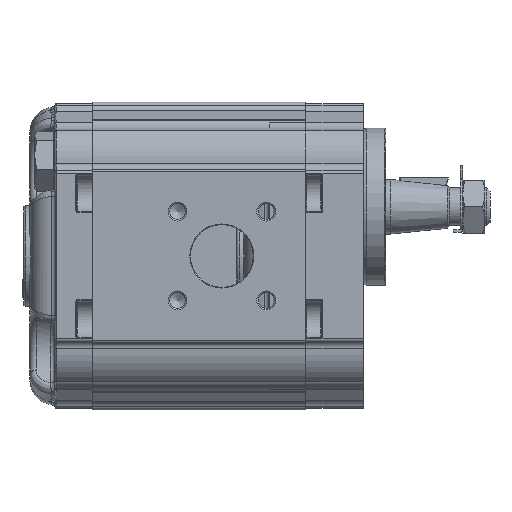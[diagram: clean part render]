
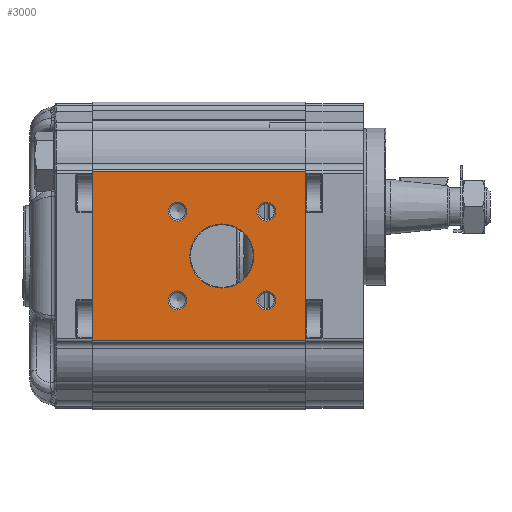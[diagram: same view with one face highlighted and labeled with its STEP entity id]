
A CAD part, left-side view. The second image highlights one B-rep face of the part: STEP entity #3000.
In plain terms, the highlighted planar face has unit normal (-1, 0, 0).
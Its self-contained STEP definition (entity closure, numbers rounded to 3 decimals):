
#3000 = ADVANCED_FACE( '', ( #7306, #7307, #7308, #7309, #7310, #7311 ), #7312, .T. );
#7306 = FACE_BOUND( '', #13536, .T. );
#7307 = FACE_BOUND( '', #13537, .T. );
#7308 = FACE_BOUND( '', #13538, .T. );
#7309 = FACE_BOUND( '', #13539, .T. );
#7310 = FACE_BOUND( '', #13540, .T. );
#7311 = FACE_OUTER_BOUND( '', #13541, .T. );
#7312 = PLANE( '', #13542 );
#13536 = EDGE_LOOP( '', ( #25080 ) );
#13537 = EDGE_LOOP( '', ( #25081 ) );
#13538 = EDGE_LOOP( '', ( #25082 ) );
#13539 = EDGE_LOOP( '', ( #25083 ) );
#13540 = EDGE_LOOP( '', ( #25084 ) );
#13541 = EDGE_LOOP( '', ( #25085, #25086, #25087, #25088 ) );
#13542 = AXIS2_PLACEMENT_3D( '', #25089, #25090, #25091 );
#25080 = ORIENTED_EDGE( '', *, *, #38917, .T. );
#25081 = ORIENTED_EDGE( '', *, *, #38963, .T. );
#25082 = ORIENTED_EDGE( '', *, *, #38964, .T. );
#25083 = ORIENTED_EDGE( '', *, *, #36078, .T. );
#25084 = ORIENTED_EDGE( '', *, *, #35800, .T. );
#25085 = ORIENTED_EDGE( '', *, *, #37810, .F. );
#25086 = ORIENTED_EDGE( '', *, *, #38965, .F. );
#25087 = ORIENTED_EDGE( '', *, *, #38966, .T. );
#25088 = ORIENTED_EDGE( '', *, *, #38145, .T. );
#25089 = CARTESIAN_POINT( '', ( -43., 68., 27.048 ) );
#25090 = DIRECTION( '', ( -1., 0., 0. ) );
#25091 = DIRECTION( '', ( 0., 0., 1. ) );
#35800 = EDGE_CURVE( '', #42375, #42375, #42376, .F. );
#36078 = EDGE_CURVE( '', #42883, #42883, #42884, .F. );
#37810 = EDGE_CURVE( '', #45817, #45819, #45820, .T. );
#38145 = EDGE_CURVE( '', #46326, #45819, #46327, .T. );
#38917 = EDGE_CURVE( '', #47504, #47504, #47505, .F. );
#38963 = EDGE_CURVE( '', #47574, #47574, #47575, .F. );
#38964 = EDGE_CURVE( '', #47576, #47576, #47577, .F. );
#38965 = EDGE_CURVE( '', #47578, #45817, #47579, .T. );
#38966 = EDGE_CURVE( '', #47578, #46326, #47580, .T. );
#42375 = VERTEX_POINT( '', #51904 );
#42376 = CIRCLE( '', #51905, 3. );
#42883 = VERTEX_POINT( '', #52650 );
#42884 = CIRCLE( '', #52651, 3. );
#45817 = VERTEX_POINT( '', #57974 );
#45819 = VERTEX_POINT( '', #57976 );
#45820 = LINE( '', #57977, #57978 );
#46326 = VERTEX_POINT( '', #59116 );
#46327 = LINE( '', #59117, #59118 );
#47504 = VERTEX_POINT( '', #61279 );
#47505 = CIRCLE( '', #61280, 10.2 );
#47574 = VERTEX_POINT( '', #61422 );
#47575 = CIRCLE( '', #61423, 3. );
#47576 = VERTEX_POINT( '', #61424 );
#47577 = CIRCLE( '', #61425, 3. );
#47578 = VERTEX_POINT( '', #61426 );
#47579 = LINE( '', #61427, #61428 );
#47580 = LINE( '', #61429, #61430 );
#51904 = CARTESIAN_POINT( '', ( -43., 12.658, -11.142 ) );
#51905 = AXIS2_PLACEMENT_3D( '', #68815, #68816, #68817 );
#52650 = CARTESIAN_POINT( '', ( -43., 12.658, 17.142 ) );
#52651 = AXIS2_PLACEMENT_3D( '', #69195, #69196, #69197 );
#57974 = CARTESIAN_POINT( '', ( -43., 0., 27.048 ) );
#57976 = CARTESIAN_POINT( '', ( -43., 0., -27.048 ) );
#57977 = CARTESIAN_POINT( '', ( -43., 0., 27.048 ) );
#57978 = VECTOR( '', #71282, 1000. );
#59116 = CARTESIAN_POINT( '', ( -43., 68., -27.048 ) );
#59117 = CARTESIAN_POINT( '', ( -43., 68., -27.048 ) );
#59118 = VECTOR( '', #71641, 1000. );
#61279 = CARTESIAN_POINT( '', ( -43., 26.8, 10.2 ) );
#61280 = AXIS2_PLACEMENT_3D( '', #72479, #72480, #72481 );
#61422 = CARTESIAN_POINT( '', ( -43., 40.942, -11.142 ) );
#61423 = AXIS2_PLACEMENT_3D( '', #72524, #72525, #72526 );
#61424 = CARTESIAN_POINT( '', ( -43., 40.942, 17.142 ) );
#61425 = AXIS2_PLACEMENT_3D( '', #72527, #72528, #72529 );
#61426 = CARTESIAN_POINT( '', ( -43., 68., 27.048 ) );
#61427 = CARTESIAN_POINT( '', ( -43., 68., 27.048 ) );
#61428 = VECTOR( '', #72530, 1000. );
#61429 = CARTESIAN_POINT( '', ( -43., 68., 27.048 ) );
#61430 = VECTOR( '', #72531, 1000. );
#68815 = CARTESIAN_POINT( '', ( -43., 12.658, -14.142 ) );
#68816 = DIRECTION( '', ( -1., 0., 0. ) );
#68817 = DIRECTION( '', ( 0., 0., 1. ) );
#69195 = CARTESIAN_POINT( '', ( -43., 12.658, 14.142 ) );
#69196 = DIRECTION( '', ( -1., 0., 0. ) );
#69197 = DIRECTION( '', ( 0., 0., 1. ) );
#71282 = DIRECTION( '', ( 0., 0., -1. ) );
#71641 = DIRECTION( '', ( 0., -1., 0. ) );
#72479 = CARTESIAN_POINT( '', ( -43., 26.8, 0. ) );
#72480 = DIRECTION( '', ( -1., 0., 0. ) );
#72481 = DIRECTION( '', ( 0., 0., 1. ) );
#72524 = CARTESIAN_POINT( '', ( -43., 40.942, -14.142 ) );
#72525 = DIRECTION( '', ( -1., 0., 0. ) );
#72526 = DIRECTION( '', ( 0., 0., 1. ) );
#72527 = CARTESIAN_POINT( '', ( -43., 40.942, 14.142 ) );
#72528 = DIRECTION( '', ( -1., 0., 0. ) );
#72529 = DIRECTION( '', ( 0., 0., 1. ) );
#72530 = DIRECTION( '', ( 0., -1., 0. ) );
#72531 = DIRECTION( '', ( 0., 0., -1. ) );
